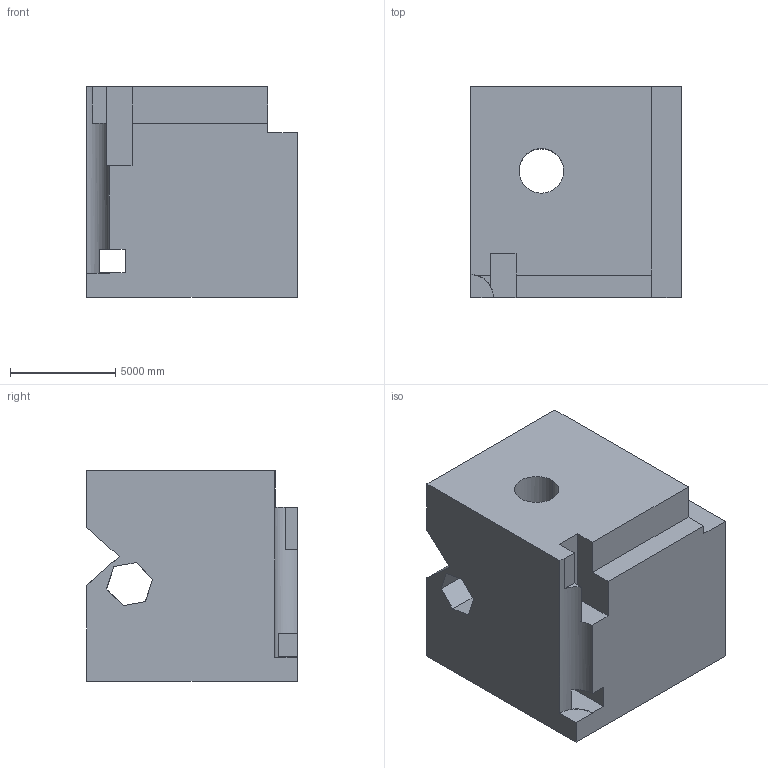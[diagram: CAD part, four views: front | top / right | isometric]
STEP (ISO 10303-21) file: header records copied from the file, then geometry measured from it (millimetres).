
FILE_DESCRIPTION (( 'STEP AP203' ), '1' );
FILE_NAME ('870.STEP', '2022-07-29T13:52:10', ( 'user' ), ( '' ), 'SwSTEP 2.0', 'SolidWorks 2021', '' );
FILE_SCHEMA (( 'CONFIG_CONTROL_DESIGN' ));
Length unit declared in the file: centimetre
Products named in the file (1): 870
Bounding box: 10000 x 10000 x 10000 mm (x, y, z)
Volume: 831936963294.7 mm3; surface area: 777108756.2 mm2
Topology: 1 solids, 1 shells, 44 faces, 135 edges, 90 vertices
Faces by surface type: plane 37, cylinder 7
Entity records: 1594 total; most frequent: CARTESIAN_POINT 324, ORIENTED_EDGE 270, DIRECTION 225, EDGE_CURVE 135, VECTOR 99, LINE 99, VERTEX_POINT 90, AXIS2_PLACEMENT_3D 63
